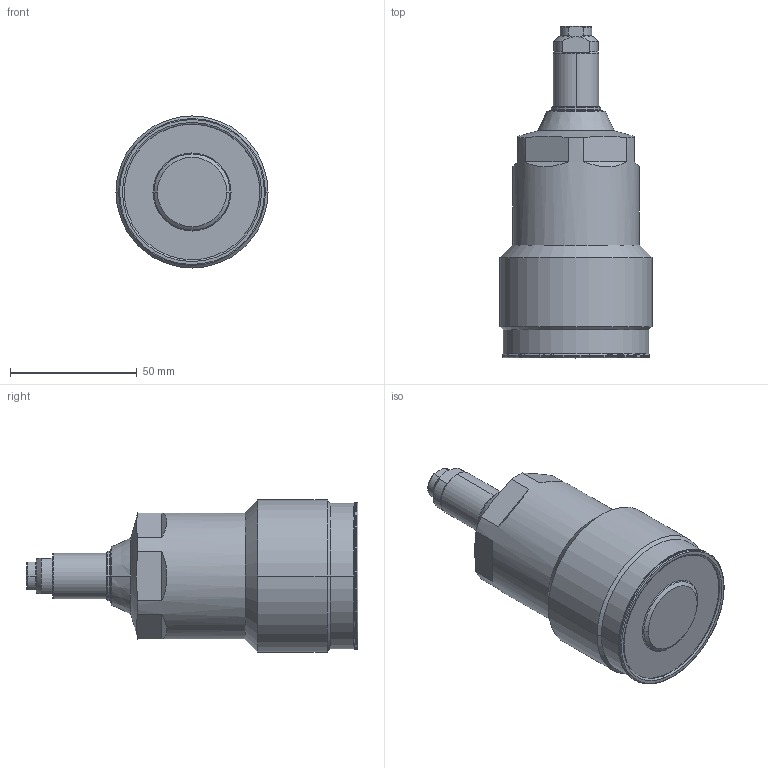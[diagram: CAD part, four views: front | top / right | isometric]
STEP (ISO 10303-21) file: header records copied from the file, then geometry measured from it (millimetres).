
FILE_DESCRIPTION(/* description */ (''),/* implementation_level */ '2;1');
FILE_NAME(/* name */ 'TNE60-Q.stp',/* time_stamp */ '2026-02-04T14:47:12+08:00',/* author */ (''),/* organization */ (''),/* preprocessor_version */ 'ST-DEVELOPER v16.7',/* originating_system */ 'SIEMENS PLM Software NX 12.0',/* authorisation */ '');
FILE_SCHEMA (('AUTOMOTIVE_DESIGN { 1 0 10303 214 3 1 1 1 }'));
Length unit declared in the file: millimetre
Products named in the file (7): XLC-M10_Oring736; XLC-M10_contactbolt737; TNE60-Q-4738; TNE60-Q-3739; TNE60-Q-2740; TNE60-Q-1741; TNE60-Q_stp
Assembly tree (6 placements, depth 3):
  TNE60-Q_stp
    TNE60-Q-1741
      XLC-M10_contactbolt737
      XLC-M10_Oring736
    TNE60-Q-2740
    TNE60-Q-3739
    TNE60-Q-4738
Bounding box: 60 x 131 x 60 mm (x, y, z)
Volume: 212425.8 mm3; surface area: 25287.7 mm2
Topology: 5 solids, 5 shells, 134 faces, 296 edges, 179 vertices
Faces by surface type: torus 38, cylinder 38, plane 34, cone 22, sphere 2
Full cylindrical faces by diameter (mm): 50 x1
Entity records: 3999 total; most frequent: CARTESIAN_POINT 783, DIRECTION 737, ORIENTED_EDGE 582, AXIS2_PLACEMENT_3D 327, EDGE_CURVE 291, CIRCLE 180, VERTEX_POINT 177, EDGE_LOOP 150
